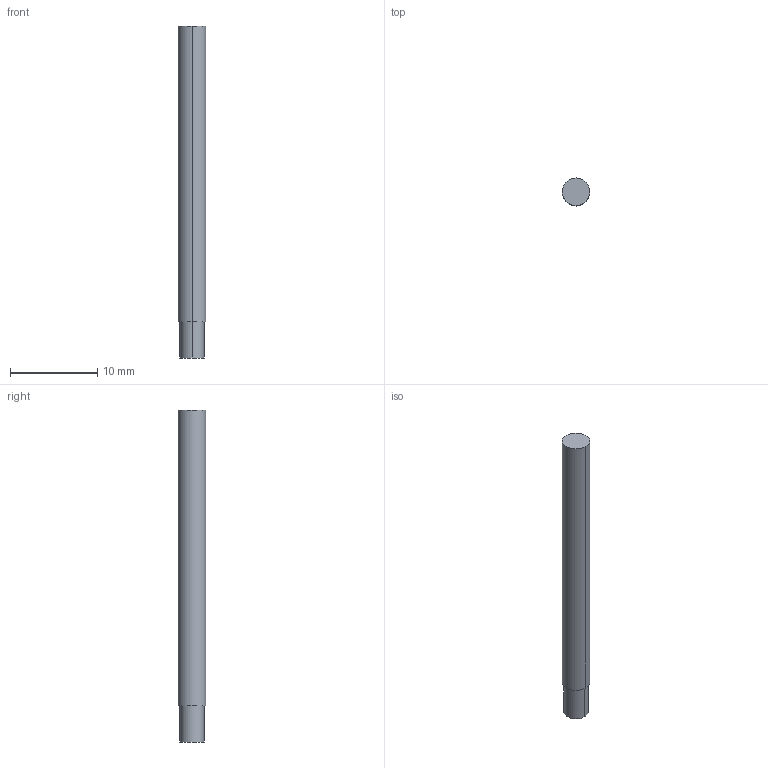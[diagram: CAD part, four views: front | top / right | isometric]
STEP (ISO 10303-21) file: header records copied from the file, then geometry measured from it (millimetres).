
FILE_DESCRIPTION((' '),'2;1');
FILE_NAME( '3MVS1094AH.stp', '2026-01-21T19:26:13', (' '), ('--- Datakit www.datakit.com---'), ' Datakit CrossCadWare V2025.4 Sep 19 2025', 'Mastercam 2027', ' ');
FILE_SCHEMA(('AUTOMOTIVE_DESIGN { 1 0 10303 214 1 1 1 1 }'));
Length unit declared in the file: inch
Products named in the file (1): 3MVS1094AH
Bounding box: 3.17 x 3.17 x 38.1 mm (x, y, z)
Volume: 293.9 mm3; surface area: 390.7 mm2
Topology: 1 solids, 1 shells, 7 faces, 12 edges, 8 vertices
Faces by surface type: cylinder 4, plane 3
Entity records: 243 total; most frequent: DIRECTION 44, CARTESIAN_POINT 32, ORIENTED_EDGE 24, AXIS2_PLACEMENT_3D 20, EDGE_CURVE 12, VERTEX_POINT 8, CIRCLE 8, EDGE_LOOP 8
